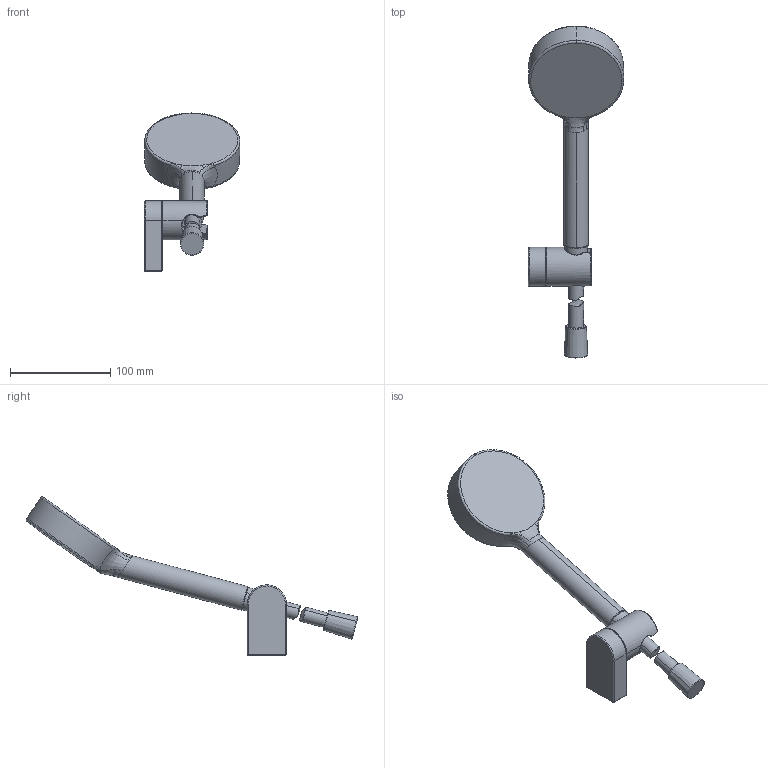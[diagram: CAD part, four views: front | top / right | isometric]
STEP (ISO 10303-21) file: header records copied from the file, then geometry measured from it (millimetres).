
FILE_DESCRIPTION (( 'STEP AP203' ), '1' );
FILE_NAME ('44170110(2021)+44170210(2021)+44170310(2021).STEP', '2021-06-10T07:32:11', ( '' ), ( '' ), 'SwSTEP 2.0', 'SolidWorks 2016', '' );
FILE_SCHEMA (( 'CONFIG_CONTROL_DESIGN' ));
Length unit declared in the file: millimetre
Products named in the file (1): 44170110(2021)+44170210(2021)+44170310(2021)
Bounding box: 95.36 x 331.44 x 157.82 mm (x, y, z)
Volume: 391388.3 mm3; surface area: 56054.6 mm2
Topology: 4 solids, 4 shells, 111 faces, 265 edges, 155 vertices
Faces by surface type: bspline 49, cylinder 22, plane 16, torus 15, cone 9
Entity records: 10627 total; most frequent: CARTESIAN_POINT 8505, ORIENTED_EDGE 510, DIRECTION 296, EDGE_CURVE 255, VERTEX_POINT 155, B_SPLINE_CURVE_WITH_KNOTS 130, AXIS2_PLACEMENT_3D 129, EDGE_LOOP 114
